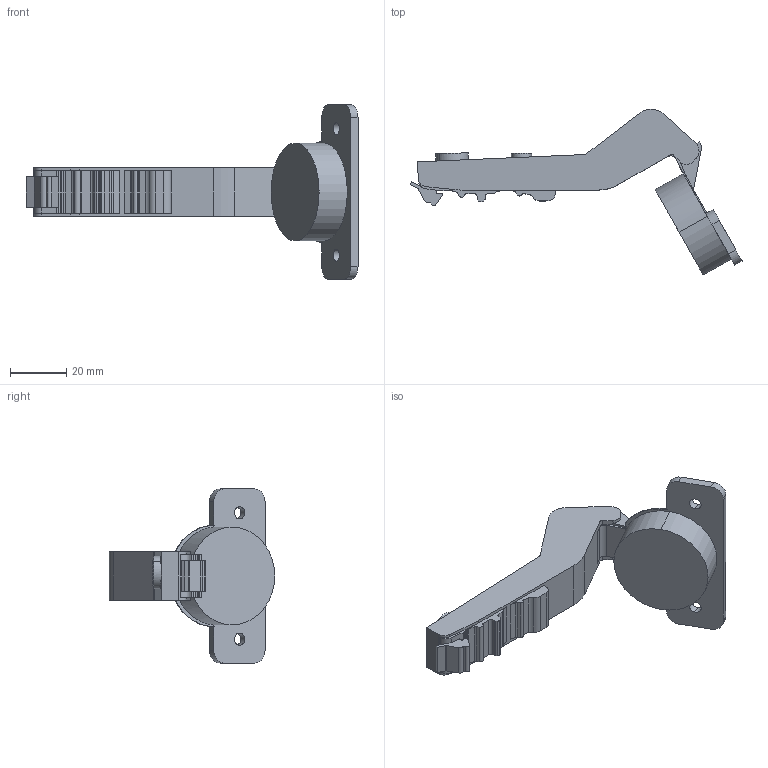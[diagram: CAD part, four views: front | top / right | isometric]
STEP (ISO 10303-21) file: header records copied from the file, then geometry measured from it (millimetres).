
FILE_DESCRIPTION (( 'STEP AP214' ), '1' );
FILE_NAME ('C82E675FA-Open.STEP', '2025-07-21T07:01:57', ( '微软用户' ), ( '微软中国' ), 'SwSTEP 2.0', 'SolidWorks 2021', '' );
FILE_SCHEMA (( 'AUTOMOTIVE_DESIGN' ));
Length unit declared in the file: millimetre
Products named in the file (1): C82E675FA-Open
Bounding box: 118.14 x 58.9 x 61.96 mm (x, y, z)
Volume: 40066.4 mm3; surface area: 12718.2 mm2
Topology: 1 solids, 1 shells, 148 faces, 431 edges, 286 vertices
Faces by surface type: plane 76, cylinder 72
Entity records: 4978 total; most frequent: CARTESIAN_POINT 893, DIRECTION 865, ORIENTED_EDGE 862, EDGE_CURVE 431, AXIS2_PLACEMENT_3D 294, VERTEX_POINT 286, VECTOR 277, LINE 277
